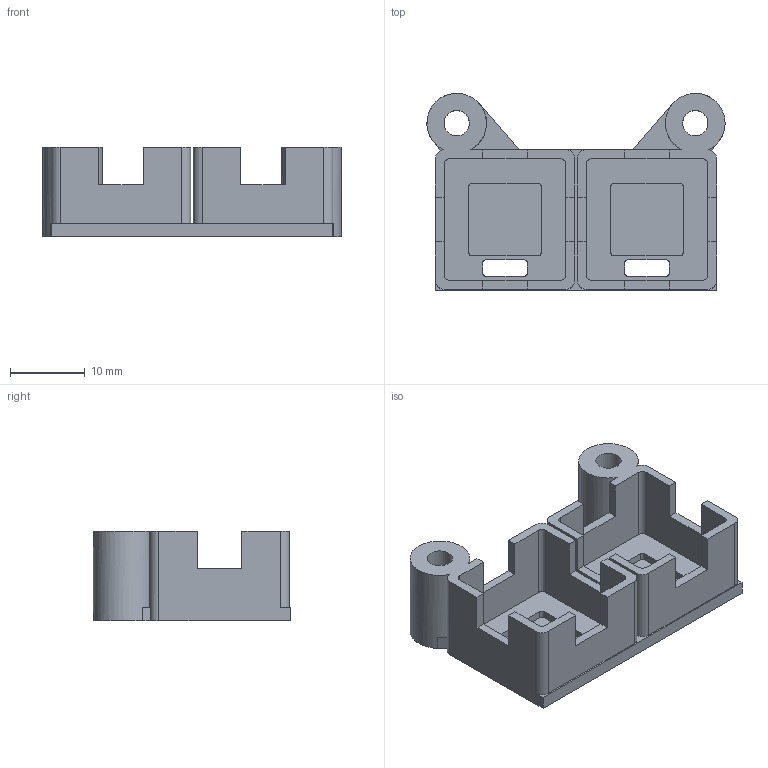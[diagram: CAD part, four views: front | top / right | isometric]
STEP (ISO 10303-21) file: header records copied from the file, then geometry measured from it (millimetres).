
FILE_DESCRIPTION(('Open CASCADE Model'),'2;1');
FILE_NAME('Open CASCADE Shape Model','2026-09-14T21:14:26',('Author'),( 'Open CASCADE'),'Open CASCADE STEP processor 7.9','Open CASCADE 7.9' ,'Unknown');
FILE_SCHEMA(('AUTOMOTIVE_DESIGN { 1 0 10303 214 1 1 1 1 }'));
Length unit declared in the file: millimetre
Products named in the file (1): Open CASCADE STEP translator 7.9 2
Bounding box: 40 x 26.45 x 12 mm (x, y, z)
Volume: 3468.6 mm3; surface area: 4989.4 mm2
Topology: 1 solids, 1 shells, 115 faces, 333 edges, 222 vertices
Faces by surface type: plane 78, cylinder 37
Full cylindrical faces by diameter (mm): 3.4 x2
Entity records: 8007 total; most frequent: CARTESIAN_POINT 1706, DIRECTION 1072, ORIENTED_EDGE 666, PCURVE 666, DEFINITIONAL_REPRESENTATION 666, LINE 627, VECTOR 627, EDGE_CURVE 333
